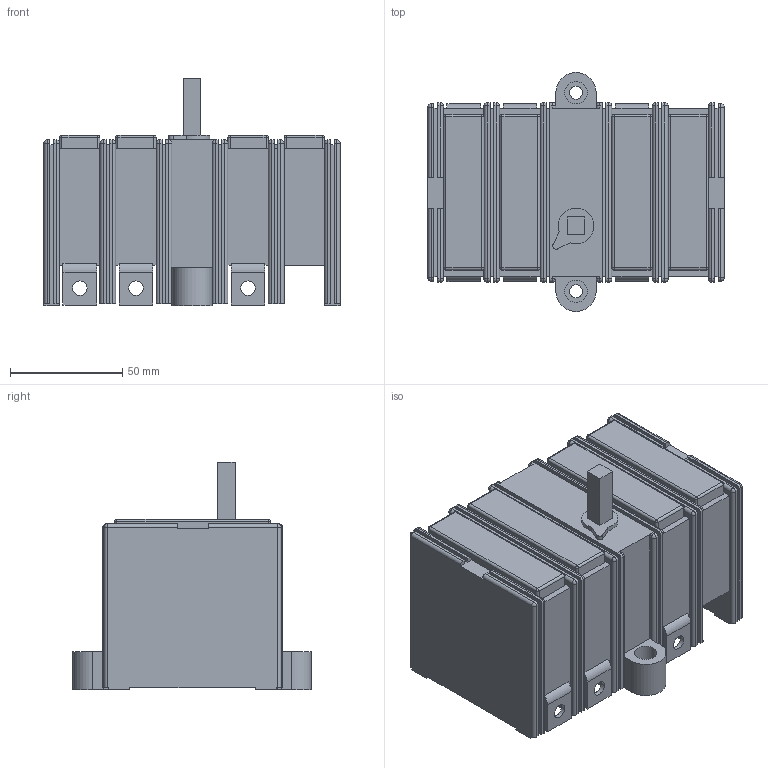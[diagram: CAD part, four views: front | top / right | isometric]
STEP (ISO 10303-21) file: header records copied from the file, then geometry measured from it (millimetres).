
FILE_DESCRIPTION(/* description */ (''),/* implementation_level */ '2;1');
FILE_NAME(/* name */ 'RA100 P3 C.stp',/* time_stamp */ '2021-08-17T14:39:14+02:00',/* author */ (''),/* organization */ (''),/* preprocessor_version */ 'ST-DEVELOPER v18.1',/* originating_system */ 'SIEMENS PLM Software NX 1965',/* authorisation */ '');
FILE_SCHEMA (('AUTOMOTIVE_DESIGN { 1 0 10303 214 3 1 1 1 }'));
Length unit declared in the file: millimetre
Products named in the file (1): RA100 P3 C
Bounding box: 132 x 106.51 x 101.5 mm (x, y, z)
Volume: 659170.8 mm3; surface area: 76795.7 mm2
Topology: 1 solids, 1 shells, 375 faces, 1009 edges, 600 vertices
Faces by surface type: plane 211, cylinder 124, sphere 39, bspline 1
Full cylindrical faces by diameter (mm): 5.8 x2, 6.5 x6, 10 x2
Entity records: 11265 total; most frequent: CARTESIAN_POINT 1983, DIRECTION 1946, ORIENTED_EDGE 1914, EDGE_CURVE 957, LINE 704, VECTOR 704, AXIS2_PLACEMENT_3D 621, VERTEX_POINT 598
